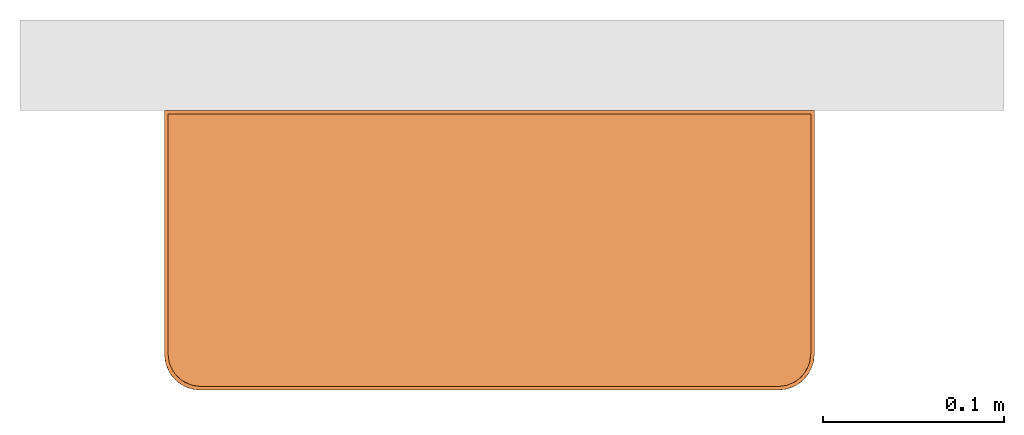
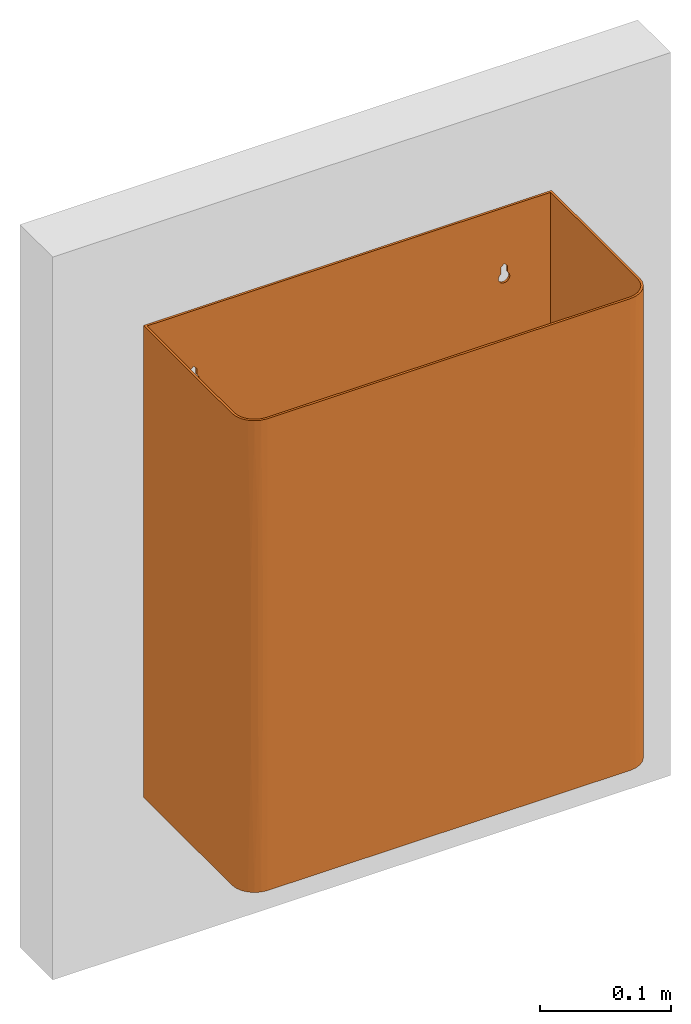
# One storey, part 2 of 2: 1 proxy.
"""IFC2X3 building model written with IfcOpenShell, lengths in millimetres."""

import ifcopenshell
import ifcopenshell.guid

model = None  # the IFC model being written
_history = None  # IfcOwnerHistory: only IFC2X3 demands one
_inside = {}  # id of a spatial element -> (the spatial element, [elements in it])
_under = {}  # id of a project, library or spatial element -> (it, [spatial elements below it])
_declared = {}  # id of a project -> (the project, [libraries it declares])
_typed = {}  # id of a type object -> (the type object, [elements of that type])
_made_of = {}  # id of a material, layer set ... -> (it, [elements and type objects made of it])


def new_model(schema):
    """Start an empty IFC model of exactly this schema.

    Asked for "IFC4X3", IfcOpenShell would pick the latest addendum, in which some entities
    have other attributes; the version numbers below select the first issue.
    IFC2X3 requires an IfcOwnerHistory on every rooted entity: one is made here for all.
    """
    global model, _history
    if schema == "IFC4X3":
        model = ifcopenshell.file(schema_version=(4, 3, 0, 0))
    else:
        model = ifcopenshell.file(schema=schema)
    _inside.clear()
    _under.clear()
    _declared.clear()
    _typed.clear()
    _made_of.clear()
    _history = None
    if model.schema == "IFC2X3":
        org = make("IfcOrganization", Name="unknown")
        user = make(
            "IfcPersonAndOrganization",
            ThePerson=make("IfcPerson", FamilyName="unknown"),
            TheOrganization=org,
        )
        app = make(
            "IfcApplication",
            ApplicationDeveloper=org,
            Version="unknown",
            ApplicationFullName="unknown",
            ApplicationIdentifier="unknown",
        )
        _history = make(
            "IfcOwnerHistory",
            OwningUser=user,
            OwningApplication=app,
            ChangeAction="ADDED",
            CreationDate=0,
        )
    return model


def make(cls, **values):
    """One entity of the class cls with the attributes given. An attribute that is None is left unset."""
    return model.create_entity(
        cls, **{name: value for name, value in values.items() if value is not None}
    )


def entity(cls, *values):
    """Any entity or typed value of the class cls, its attributes in the order of the schema. None: left unset."""
    e = model.create_entity(cls)
    for i, value in enumerate(values):
        if value is not None:
            e[i] = value
    return e


def rooted(cls, **values):
    """An entity with a GlobalId (a new one), such as an element, a storey or a relation."""
    return make(cls, GlobalId=ifcopenshell.guid.new(), OwnerHistory=_history, **values)


def si_unit(unit_type, name, prefix=None):
    """IfcSIUnit, for example si_unit("LENGTHUNIT", "METRE", prefix="MILLI")."""
    return make("IfcSIUnit", UnitType=unit_type, Prefix=prefix, Name=name)


def converted_unit(unit_type, name, factor, base, dimensions=None, offset=None):
    """IfcConversionBasedUnit, such as the inch: factor (a typed value) times the base unit."""
    return make(
        "IfcConversionBasedUnit"
        if offset is None
        else "IfcConversionBasedUnitWithOffset",
        ConversionOffset=offset,
        Dimensions=None
        if dimensions is None
        else entity("IfcDimensionalExponents", *dimensions),
        UnitType=unit_type,
        Name=name,
        ConversionFactor=make(
            "IfcMeasureWithUnit", ValueComponent=factor, UnitComponent=base
        ),
    )


def derived_unit(unit_type, elements):
    """IfcDerivedUnit: a product of units, each with its exponent."""
    return make(
        "IfcDerivedUnit",
        Elements=[
            make("IfcDerivedUnitElement", Unit=unit, Exponent=power)
            for unit, power in elements
        ],
        UnitType=unit_type,
    )


def assignment(units):
    """IfcUnitAssignment: the units of a project."""
    return None if units is None else make("IfcUnitAssignment", Units=units)


def point(xyz):
    """IfcCartesianPoint."""
    return None if xyz is None else make("IfcCartesianPoint", Coordinates=xyz)


def direction(xyz):
    """IfcDirection."""
    return None if xyz is None else make("IfcDirection", DirectionRatios=xyz)


def frame(location, z_axis=None, x_axis=None):
    """IfcAxis2Placement3D, a coordinate frame: its origin and axes. An axis left out is left unset."""
    return make(
        "IfcAxis2Placement3D",
        Location=point(location),
        Axis=direction(z_axis),
        RefDirection=direction(x_axis),
    )


def origin():
    """The frame at (0, 0, 0) with its axes left unset."""
    return frame((0.0, 0.0, 0.0))


def place(relative_to, where):
    """IfcLocalPlacement: puts the frame where relative to a parent placement (None: the world)."""
    return make(
        "IfcLocalPlacement", PlacementRelTo=relative_to, RelativePlacement=where
    )


def context(
    kind, dimensions, precision=None, world=None, true_north=None, identifier=None
):
    """IfcGeometricRepresentationContext, for example the 3D "Model" context."""
    return make(
        "IfcGeometricRepresentationContext",
        ContextIdentifier=identifier,
        ContextType=kind,
        CoordinateSpaceDimension=dimensions,
        Precision=precision,
        WorldCoordinateSystem=world,
        TrueNorth=true_north,
    )


def subcontext(parent, identifier, kind, view, scale=None):
    """IfcGeometricRepresentationSubContext, for example "Body" below "Model"."""
    return make(
        "IfcGeometricRepresentationSubContext",
        ContextIdentifier=identifier,
        ContextType=kind,
        ParentContext=parent,
        TargetScale=scale,
        TargetView=view,
    )


def project(units=None, contexts=None):
    """IfcProject with its units and contexts."""
    return rooted(
        "IfcProject",
        Name="project",
        RepresentationContexts=contexts,
        UnitsInContext=assignment(units),
    )


def spatial(cls, under=None, at=None, **own):
    """A site, building, storey or space (cls), placed at a placement, below another one or the project."""
    s = rooted(cls, ObjectPlacement=at, **own)
    if under is not None:
        _under.setdefault(under.id(), (under, []))[1].append(s)
    return s


def faces_of(points, faces, orient=None, outer=None):
    """IfcFace entities. A face is a list of loops; a loop is a list of indices into points, from 0.

    orient and outer hold one flag for each loop. By default every Orientation is true, the
    first loop of a face is its IfcFaceOuterBound and the others are IfcFaceBound.
    """
    made = []
    for i, loops in enumerate(faces):
        bounds = []
        for j, loop in enumerate(loops):
            is_outer = j == 0 if outer is None else outer[i][j]
            bounds.append(
                make(
                    "IfcFaceOuterBound" if is_outer else "IfcFaceBound",
                    Bound=make("IfcPolyLoop", Polygon=[points[k] for k in loop]),
                    Orientation=True if orient is None else orient[i][j],
                )
            )
        made.append(make("IfcFace", Bounds=bounds))
    return made


def faceted_brep(points, faces, orient=None, outer=None, voids=None):
    """IfcFacetedBrep: a solid bounded by flat faces; with voids (closed shells), ...WithVoids."""
    shared = [point(p) for p in points]
    hull = make("IfcClosedShell", CfsFaces=faces_of(shared, faces, orient, outer))
    if voids is None:
        return make("IfcFacetedBrep", Outer=hull)
    return make(
        "IfcFacetedBrepWithVoids",
        Outer=hull,
        Voids=[
            make(cls, CfsFaces=faces_of(shared, fs, o, b)) for cls, fs, o, b in voids
        ],
    )


def shape(context_of_items, identifier, shape_type, items):
    """IfcShapeRepresentation: the items that make up one representation, for example the "Body"."""
    return make(
        "IfcShapeRepresentation",
        ContextOfItems=context_of_items,
        RepresentationIdentifier=identifier,
        RepresentationType=shape_type,
        Items=items,
    )


def source(mapping_origin, context_of_items, identifier, shape_type, items):
    """IfcRepresentationMap: a shape defined once, which mapped items show again and again."""
    return make(
        "IfcRepresentationMap",
        MappingOrigin=mapping_origin,
        MappedRepresentation=shape(context_of_items, identifier, shape_type, items),
    )


def transform(
    local_origin,
    x_axis=None,
    y_axis=None,
    z_axis=None,
    scale=None,
    scale2=None,
    scale3=None,
    uniform=True,
):
    """IfcCartesianTransformationOperator3D, or its non-uniform kind. x_axis, y_axis, z_axis: its Axis1, 2, 3."""
    if uniform:
        return make(
            "IfcCartesianTransformationOperator3D",
            Axis1=direction(x_axis),
            Axis2=direction(y_axis),
            LocalOrigin=point(local_origin),
            Scale=scale,
            Axis3=direction(z_axis),
        )
    return make(
        "IfcCartesianTransformationOperator3DnonUniform",
        Axis1=direction(x_axis),
        Axis2=direction(y_axis),
        LocalOrigin=point(local_origin),
        Scale=scale,
        Axis3=direction(z_axis),
        Scale2=scale2,
        Scale3=scale3,
    )


def mapped(mapping_source, mapping_target):
    """IfcMappedItem: shows the shape of a source again, moved by a transform."""
    return make(
        "IfcMappedItem", MappingSource=mapping_source, MappingTarget=mapping_target
    )


def material(Name=None, Category=None):
    """IfcMaterial."""
    return make("IfcMaterial", Name=Name, Category=Category)


def material_list(materials):
    """IfcMaterialList."""
    return make("IfcMaterialList", Materials=materials)


def made_of(thing, what):
    """Note that an element or type object is made of a material, layer set ...; save() writes the relation."""
    if what is not None:
        _made_of.setdefault(what.id(), (what, []))[1].append(thing)
    return thing


def element(
    cls,
    number,
    at=None,
    inside=None,
    cuts=None,
    type_object=None,
    material=None,
    context=None,
    identifier="Body",
    shape_type=None,
    held_by="IfcProductDefinitionShape",
    body=None,
    shapes=None,
    **own,
):
    """One element of the class cls, such as IfcWall. Its Tag is "e" and its number.

    at: its placement. inside: the storey or other place that contains it. cuts: it is an
    opening in that element (IfcRelVoidsElement). A single representation is given by context,
    identifier, shape_type and body (its items); several are given by shapes. held_by: the class
    of the entity that holds the representations. save() writes the other relations.
    """
    e = rooted(cls, Tag="e%d" % number, ObjectPlacement=at, **own)
    if body is not None:
        shapes = [shape(context, identifier, shape_type, body)]
    if shapes is not None:
        e.Representation = make(held_by, Representations=shapes)
    if inside is not None:
        _inside.setdefault(inside.id(), (inside, []))[1].append(e)
    if cuts is not None:
        rooted(
            "IfcRelVoidsElement", RelatingBuildingElement=cuts, RelatedOpeningElement=e
        )
    if type_object is not None:
        _typed.setdefault(type_object.id(), (type_object, []))[1].append(e)
    return made_of(e, material)


def aggregate(whole, parts):
    """IfcRelAggregates: a whole, such as a stair, and the parts it consists of."""
    return rooted("IfcRelAggregates", RelatingObject=whole, RelatedObjects=parts)


def save(model, path):
    """Write the relations noted so far, then the file.

    IfcRelAggregates (storeys below a building ...), IfcRelContainedInSpatialStructure (elements
    in a storey), IfcRelDefinesByType, IfcRelAssociatesMaterial and IfcRelDeclares: one each for
    every whole, place, type object, material and project.
    """
    for whole, parts in _under.values():
        aggregate(whole, parts)
    for where, things in _inside.values():
        rooted(
            "IfcRelContainedInSpatialStructure",
            RelatedElements=things,
            RelatingStructure=where,
        )
    for kind, things in _typed.values():
        rooted("IfcRelDefinesByType", RelatedObjects=things, RelatingType=kind)
    for what, things in _made_of.values():
        rooted("IfcRelAssociatesMaterial", RelatedObjects=things, RelatingMaterial=what)
    for by, libraries in _declared.values():
        rooted("IfcRelDeclares", RelatingContext=by, RelatedDefinitions=libraries)
    model.write(path)


model = new_model("IFC2X3")

# Units and contexts
model_context = context("Model", 3, precision=1e-05, world=origin(), true_north=direction((2.0, 6.12303176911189e-17, 1.0)))
context_of_model = context(None, 3, precision=1e-05, world=origin(), true_north=direction((2.0, 6.12303176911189e-17, 1.0)))
body_context = subcontext(model_context, "Body", "Model", "MODEL_VIEW")
ifc_project = project(units=[si_unit("LENGTHUNIT", "METRE", prefix="MILLI"), si_unit("AREAUNIT", "SQUARE_METRE"), si_unit("VOLUMEUNIT", "CUBIC_METRE"), converted_unit("PLANEANGLEUNIT", "DEGREE", entity("IfcRatioMeasure", 0.0174532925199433), si_unit("PLANEANGLEUNIT", "RADIAN"), dimensions=[0, 0, 0, 0, 0, 0, 0]), si_unit("MASSUNIT", "GRAM", prefix="KILO"), si_unit("TIMEUNIT", "SECOND"), si_unit("THERMODYNAMICTEMPERATUREUNIT", "KELVIN"), derived_unit("THERMALTRANSMITTANCEUNIT", [(si_unit("MASSUNIT", "GRAM", prefix="KILO"), 1), (si_unit("THERMODYNAMICTEMPERATUREUNIT", "KELVIN"), -1), (si_unit("TIMEUNIT", "SECOND"), -3)]), derived_unit("VOLUMETRICFLOWRATEUNIT", [(si_unit("LENGTHUNIT", "METRE"), 3), (si_unit("TIMEUNIT", "SECOND"), -1)]), si_unit("POWERUNIT", "WATT")], contexts=[model_context, context_of_model])

# Site, building, storey
site_placement = place(None, origin())
site = spatial("IfcSite", under=ifc_project, at=site_placement, Name="Default", CompositionType="ELEMENT")
building_placement = place(site_placement, origin())
building = spatial("IfcBuilding", under=site, at=building_placement, CompositionType="ELEMENT")
storey_placement = place(building_placement, origin())
storey = spatial("IfcBuildingStorey", under=building, at=storey_placement, Name="Level 1", CompositionType="ELEMENT", Elevation=0.0)

# Proxy
ifc_material = material(Name="Stainless Steel")
ifc_material_list = material_list([ifc_material])
shared_shape = source(origin(), body_context, "Body", "Brep", [
    faceted_brep([(180.0, 155.0, 440.0), (178.0, 153.0, 440.0), (180.0, 20.0, 440.0), (-178.0, 153.0, 440.0), (-180.0, 155.0, 440.0), (-180.0, 20.0, 440.0), (-178.0, 20.0, 440.0), (-177.386664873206, 15.3412571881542, 440.0), (-179.318516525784, 14.8236190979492, 440.0), (-177.320508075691, 10.0, 440.0), (-175.588457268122, 11.0, 440.0), (-174.142135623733, 5.85786437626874, 440.0), (-172.72792206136, 7.27207793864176, 440.0), (-170.0, 2.67949192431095, 440.0), (-169.0, 4.41154273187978, 440.0), (-165.176380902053, 0.681483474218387, 440.0), (-164.658742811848, 2.6133351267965, 440.0), (-160.0, 0.0, 440.0), (-160.0, 2.0, 440.0), (160.0, 2.0, 440.0), (160.0, 0.0, 440.0), (164.658742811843, 2.61333512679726, 440.0), (165.176380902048, 0.681483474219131, 440.0), (169.0, 4.41154273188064, 440.0), (170.0, 2.67949192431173, 440.0), (172.727922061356, 7.27207793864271, 440.0), (174.142135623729, 5.85786437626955, 440.0), (175.588457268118, 11.0, 440.0), (177.320508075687, 10.0, 440.0), (177.386664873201, 15.3412571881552, 440.0), (179.318516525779, 14.8236190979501, 440.0), (178.0, 20.0, 440.0), (-180.0, 155.0, 0.0), (-178.0, 153.0, 0.0), (-180.0, 20.0, 0.0), (178.0, 153.0, 0.0), (180.0, 155.0, 0.0), (180.0, 20.0, 0.0), (178.0, 20.0, 0.0), (177.386664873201, 15.3412571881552, 0.0), (179.318516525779, 14.8236190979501, 0.0), (177.320508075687, 10.0, 0.0), (175.588457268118, 11.0, 0.0), (174.142135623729, 5.85786437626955, 0.0), (172.727922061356, 7.27207793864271, 0.0), (170.0, 2.67949192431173, 0.0), (169.0, 4.41154273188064, 0.0), (165.176380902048, 0.681483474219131, 0.0), (164.658742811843, 2.61333512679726, 0.0), (160.0, 0.0, 0.0), (160.0, 2.0, 0.0), (-160.0, 2.0, 0.0), (-160.0, 0.0, 0.0), (-164.658742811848, 2.6133351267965, 0.0), (-165.176380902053, 0.681483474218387, 0.0), (-169.0, 4.41154273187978, 0.0), (-170.0, 2.67949192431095, 0.0), (-172.72792206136, 7.27207793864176, 0.0), (-174.142135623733, 5.85786437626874, 0.0), (-175.588457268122, 11.0, 0.0), (-177.320508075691, 10.0, 0.0), (-177.386664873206, 15.3412571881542, 0.0), (-179.318516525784, 14.8236190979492, 0.0), (-178.0, 20.0, 0.0), (140.0, 155.0, 385.0), (140.895755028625, 155.0, 378.134181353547), (140.0, 155.0, 379.0), (141.549658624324, 155.0, 377.073790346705), (141.92111595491, 155.0, 375.884656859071), (137.0, 155.0, 388.0), (-137.0, 155.0, 388.0), (-134.0, 155.0, 385.0), (134.0, 155.0, 385.0), (-132.07888404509, 155.0, 375.88465685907), (132.078884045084, 155.0, 375.884656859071), (132.45034137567, 155.0, 377.073790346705), (133.104244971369, 155.0, 378.134181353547), (134.0, 155.0, 379.0), (-132.012933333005, 155.0, 374.640603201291), (132.012933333, 155.0, 374.640603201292), (-132.25658350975, 155.0, 373.418861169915), (132.256583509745, 155.0, 373.418861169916), (-132.79470858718, 155.0, 372.295277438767), (132.794708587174, 155.0, 372.295277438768), (133.59390135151, 155.0, 371.339604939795), (-133.593901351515, 155.0, 371.339604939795), (137.0, 155.0, 78.0), (134.604547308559, 155.0, 370.61117254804), (135.763904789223, 155.0, 370.155201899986), (137.0, 155.0, 370.0), (138.236095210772, 155.0, 370.155201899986), (139.395452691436, 155.0, 370.61117254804), (140.406098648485, 155.0, 371.339604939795), (140.0, 155.0, 75.0), (141.20529141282, 155.0, 372.295277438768), (141.74341649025, 155.0, 373.418861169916), (141.987066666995, 155.0, 374.640603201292), (141.921115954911, 155.0, 65.8846568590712), (141.549658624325, 155.0, 67.0737903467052), (140.895755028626, 155.0, 68.1341813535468), (140.0, 155.0, 69.0), (-137.0, 155.0, 78.0), (-134.0, 155.0, 75.0), (134.0, 155.0, 75.0), (132.078884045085, 155.0, 65.8846568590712), (132.450341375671, 155.0, 67.0737903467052), (133.10424497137, 155.0, 68.1341813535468), (134.0, 155.0, 69.0), (-132.07888404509, 155.0, 65.8846568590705), (132.012933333, 155.0, 64.6406032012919), (-132.012933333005, 155.0, 64.6406032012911), (132.256583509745, 155.0, 63.4188611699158), (-132.25658350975, 155.0, 63.4188611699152), (132.794708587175, 155.0, 62.295277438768), (-132.794708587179, 155.0, 62.2952774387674), (133.59390135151, 155.0, 61.3396049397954), (134.604547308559, 155.0, 60.6111725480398), (-133.593901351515, 155.0, 61.3396049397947), (-134.604547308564, 155.0, 60.611172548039), (135.763904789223, 155.0, 60.1552018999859), (137.0, 155.0, 60.0), (138.236095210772, 155.0, 60.1552018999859), (139.395452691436, 155.0, 60.6111725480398), (140.406098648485, 155.0, 61.3396049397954), (141.205291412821, 155.0, 62.2952774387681), (141.74341649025, 155.0, 63.4188611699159), (141.987066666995, 155.0, 64.6406032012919), (-132.450341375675, 155.0, 67.0737903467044), (-133.104244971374, 155.0, 68.134181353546), (-134.0, 155.0, 69.0), (-134.604547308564, 155.0, 370.611172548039), (-135.763904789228, 155.0, 370.155201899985), (-137.0, 155.0, 370.0), (-138.236095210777, 155.0, 370.155201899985), (-139.395452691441, 155.0, 370.611172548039), (-140.40609864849, 155.0, 371.339604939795), (-140.0, 155.0, 75.0), (-141.205291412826, 155.0, 372.295277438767), (-141.743416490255, 155.0, 373.418861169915), (-141.921115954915, 155.0, 65.8846568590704), (-141.549658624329, 155.0, 67.0737903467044), (-140.89575502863, 155.0, 68.134181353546), (-140.0, 155.0, 69.0), (-141.987066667, 155.0, 64.6406032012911), (-141.743416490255, 155.0, 63.4188611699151), (-141.205291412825, 155.0, 62.2952774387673), (-140.40609864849, 155.0, 61.3396049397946), (-139.395452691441, 155.0, 60.611172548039), (-138.236095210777, 155.0, 60.1552018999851), (-137.0, 155.0, 60.0), (-135.763904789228, 155.0, 60.1552018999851), (-140.0, 155.0, 385.0), (-141.921115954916, 155.0, 375.88465685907), (-141.987066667, 155.0, 374.640603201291), (-132.450341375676, 155.0, 377.073790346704), (-133.104244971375, 155.0, 378.134181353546), (-134.0, 155.0, 379.0), (-141.54965862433, 155.0, 377.073790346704), (-140.895755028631, 155.0, 378.134181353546), (-140.0, 155.0, 379.0), (-180.0, 20.0, 78.0768874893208), (-180.0, 20.0, 220.0), (-180.0, 20.0, 330.0), (-178.506938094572, 12.4175701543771, 97.8257032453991), (-178.477590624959, 12.3463312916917, 220.000002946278), (-179.615705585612, 16.0981934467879, 149.038452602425), (-172.17522852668, 4.13293315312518, 291.192933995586), (-175.867066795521, 7.82477140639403, 148.80706709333), (-172.175228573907, 4.13293318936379, 131.776850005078), (-179.615705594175, 16.0981934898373, 274.753524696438), (-175.867066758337, 7.82477135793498, 308.223151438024), (-178.638043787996, 12.7458064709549, 338.681401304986), (-167.254193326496, 1.36195613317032, 101.318601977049), (-163.901806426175, 0.384294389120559, 165.24648300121), (-160.0, 0.0, 109.999977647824), (-163.901806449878, 0.384294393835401, 290.961557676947), (-167.65366864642, 1.5224093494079, 220.0), (-167.582429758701, 1.49306186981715, 342.174299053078), (-160.0, 0.0, 361.9231324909), (-160.0, 0.0, 220.000044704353), (160.0, 0.0, 78.076872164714), (160.0, 0.0, 220.0), (160.0, 0.0, 330.000034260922), (163.901806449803, 0.384294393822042, 149.0384427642), (167.582429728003, 1.49306185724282, 97.8257015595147), (167.653668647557, 1.52240934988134, 220.0), (172.175228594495, 4.13293320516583, 308.223150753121), (167.254193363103, 1.36195614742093, 338.681398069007), (175.867066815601, 7.82477143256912, 291.192932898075), (172.175228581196, 4.13293319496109, 148.807067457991), (175.867066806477, 7.82477142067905, 131.776849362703), (179.615705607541, 16.0981935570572, 290.961557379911), (178.477590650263, 12.3463313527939, 220.0), (179.61570560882, 16.0981935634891, 165.246483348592), (163.901806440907, 0.38429439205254, 274.753517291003), (178.638043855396, 12.7458066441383, 101.318601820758), (180.0, 20.0, 110.0), (178.506938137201, 12.4175702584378, 342.174298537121), (180.0, 20.0, 361.922947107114), (180.0, 20.0, 220.0), (-140.0, 153.0, 385.0), (-140.895755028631, 153.0, 378.134181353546), (-140.0, 153.0, 379.0), (-141.54965862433, 153.0, 377.073790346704), (-141.921115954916, 153.0, 375.88465685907), (-137.0, 153.0, 388.0), (137.0, 153.0, 388.0), (134.0, 153.0, 385.0), (-134.0, 153.0, 385.0), (132.078884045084, 153.0, 375.884656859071), (-132.07888404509, 153.0, 375.88465685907), (-132.450341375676, 153.0, 377.073790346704), (-133.104244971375, 153.0, 378.134181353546), (-134.0, 153.0, 379.0), (132.012933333, 153.0, 374.640603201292), (-132.012933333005, 153.0, 374.640603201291), (132.256583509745, 153.0, 373.418861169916), (-132.25658350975, 153.0, 373.418861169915), (132.794708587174, 153.0, 372.295277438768), (-132.79470858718, 153.0, 372.295277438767), (-133.593901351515, 153.0, 371.339604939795), (133.59390135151, 153.0, 371.339604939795), (-137.0, 153.0, 78.0), (-134.604547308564, 153.0, 370.611172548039), (-135.763904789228, 153.0, 370.155201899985), (-137.0, 153.0, 370.0), (-138.236095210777, 153.0, 370.155201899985), (-139.395452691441, 153.0, 370.611172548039), (-140.40609864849, 153.0, 371.339604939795), (-140.0, 153.0, 75.0), (-141.205291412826, 153.0, 372.295277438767), (-141.743416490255, 153.0, 373.418861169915), (-141.987066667, 153.0, 374.640603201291), (-141.921115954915, 153.0, 65.8846568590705), (-141.549658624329, 153.0, 67.0737903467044), (-140.89575502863, 153.0, 68.134181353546), (-140.0, 153.0, 69.0), (137.0, 153.0, 78.0), (134.0, 153.0, 75.0), (-134.0, 153.0, 75.0), (-132.07888404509, 153.0, 65.8846568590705), (-132.450341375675, 153.0, 67.0737903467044), (-133.104244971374, 153.0, 68.134181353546), (-134.0, 153.0, 69.0), (132.078884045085, 153.0, 65.8846568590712), (-132.012933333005, 153.0, 64.6406032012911), (132.012933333, 153.0, 64.6406032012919), (-132.25658350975, 153.0, 63.4188611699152), (132.256583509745, 153.0, 63.4188611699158), (-132.794708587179, 153.0, 62.2952774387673), (132.794708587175, 153.0, 62.2952774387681), (-133.593901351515, 153.0, 61.3396049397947), (-134.604547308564, 153.0, 60.611172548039), (133.59390135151, 153.0, 61.3396049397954), (134.604547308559, 153.0, 60.6111725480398), (-135.763904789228, 153.0, 60.1552018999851), (-137.0, 153.0, 60.0), (-138.236095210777, 153.0, 60.1552018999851), (-139.395452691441, 153.0, 60.611172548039), (-140.40609864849, 153.0, 61.3396049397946), (-141.205291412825, 153.0, 62.2952774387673), (-141.743416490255, 153.0, 63.4188611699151), (-141.987066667, 153.0, 64.6406032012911), (132.450341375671, 153.0, 67.0737903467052), (133.10424497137, 153.0, 68.1341813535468), (134.0, 153.0, 69.0), (134.604547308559, 153.0, 370.61117254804), (135.763904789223, 153.0, 370.155201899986), (137.0, 153.0, 370.0), (138.236095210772, 153.0, 370.155201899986), (139.395452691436, 153.0, 370.61117254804), (140.406098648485, 153.0, 371.339604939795), (140.0, 153.0, 75.0), (141.20529141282, 153.0, 372.295277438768), (141.74341649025, 153.0, 373.418861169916), (141.921115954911, 153.0, 65.8846568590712), (141.549658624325, 153.0, 67.0737903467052), (140.895755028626, 153.0, 68.1341813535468), (140.0, 153.0, 69.0), (141.987066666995, 153.0, 64.6406032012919), (141.74341649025, 153.0, 63.4188611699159), (141.205291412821, 153.0, 62.2952774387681), (140.406098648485, 153.0, 61.3396049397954), (139.395452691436, 153.0, 60.6111725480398), (138.236095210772, 153.0, 60.1552018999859), (137.0, 153.0, 60.0), (135.763904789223, 153.0, 60.1552018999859), (140.0, 153.0, 385.0), (141.92111595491, 153.0, 375.884656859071), (141.987066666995, 153.0, 374.640603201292), (132.45034137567, 153.0, 377.073790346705), (133.104244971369, 153.0, 378.134181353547), (134.0, 153.0, 379.0), (141.549658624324, 153.0, 377.073790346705), (140.895755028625, 153.0, 378.134181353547), (140.0, 153.0, 379.0), (178.0, 20.0, 148.140717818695), (178.0, 20.0, 296.281029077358), (176.629831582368, 13.111698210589, 337.635485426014), (177.132724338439, 14.4800582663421, 222.210711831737), (174.280360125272, 9.04229427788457, 220.0), (160.0, 2.0, 143.71823639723), (160.0, 2.0, 291.860131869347), (163.790680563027, 2.4036725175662, 167.193624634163), (166.888301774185, 3.37016841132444, 229.617527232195), (170.957705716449, 5.71963987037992, 301.938062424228), (170.957705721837, 5.71963987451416, 141.433724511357), (166.888301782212, 3.37016841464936, 104.769722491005), (177.685868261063, 16.6518566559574, 340.596624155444), (177.691191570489, 16.6800992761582, 100.032806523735), (174.687563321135, 9.59444938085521, 334.375699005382), (176.629831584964, 13.1116982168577, 104.705159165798), (174.686584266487, 9.59306757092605, 105.609239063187), (166.675021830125, 3.2834189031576, 343.624233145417), (163.655649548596, 2.37512478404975, 274.59879628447), (-160.0, 2.0, 148.140301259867), (-160.0, 2.0, 296.280602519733), (-166.888301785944, 3.37016841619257, 337.63548527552), (-165.519941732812, 2.86727566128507, 222.210711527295), (-170.957705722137, 5.7196398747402, 220.0), (-178.0, 20.0, 143.719051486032), (-178.0, 20.0, 291.859525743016), (-177.596327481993, 16.2093194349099, 167.193624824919), (-176.629831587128, 13.1116982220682, 229.617527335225), (-174.280360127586, 9.04229428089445, 301.938062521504), (-174.280360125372, 9.04229427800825, 141.433724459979), (-176.629831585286, 13.1116982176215, 104.769722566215), (-163.34814333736, 2.31413173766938, 340.596624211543), (-163.319900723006, 2.30880842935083, 100.032806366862), (-170.405550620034, 5.31243667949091, 334.375699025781), (-166.888301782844, 3.37016841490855, 104.705159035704), (-170.406932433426, 5.31341573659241, 105.609239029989), (-176.716581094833, 13.3249781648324, 343.624233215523), (-177.624875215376, 16.3443504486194, 274.598796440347)], [[[0, 1, 2]], [[1, 0, 3]], [[4, 3, 0]], [[3, 4, 5]], [[5, 6, 3]], [[7, 6, 5]], [[8, 7, 5]], [[9, 7, 8]], [[9, 10, 7]], [[10, 9, 11]], [[11, 12, 10]], [[12, 11, 13]], [[13, 14, 12]], [[14, 13, 15]], [[16, 14, 15]], [[15, 17, 16]], [[18, 16, 17]], [[18, 17, 19]], [[19, 17, 20]], [[21, 19, 20]], [[20, 22, 21]], [[21, 22, 23]], [[24, 23, 22]], [[23, 24, 25]], [[26, 25, 24]], [[25, 26, 27]], [[28, 27, 26]], [[27, 28, 29]], [[29, 28, 30]], [[29, 30, 2]], [[2, 1, 31]], [[29, 2, 31]], [[32, 33, 34]], [[33, 32, 35]], [[36, 35, 32]], [[35, 36, 37]], [[37, 38, 35]], [[39, 38, 37]], [[40, 39, 37]], [[41, 39, 40]], [[41, 42, 39]], [[42, 41, 43]], [[43, 44, 42]], [[44, 43, 45]], [[45, 46, 44]], [[46, 45, 47]], [[48, 46, 47]], [[47, 49, 48]], [[50, 48, 49]], [[50, 49, 51]], [[51, 49, 52]], [[53, 51, 52]], [[52, 54, 53]], [[53, 54, 55]], [[56, 55, 54]], [[55, 56, 57]], [[58, 57, 56]], [[57, 58, 59]], [[60, 59, 58]], [[59, 60, 61]], [[61, 60, 62]], [[61, 62, 34]], [[34, 33, 63]], [[61, 34, 63]], [[64, 65, 66]], [[67, 65, 64]], [[68, 67, 64]], [[68, 64, 0]], [[0, 64, 69]], [[0, 69, 70]], [[70, 69, 71]], [[71, 69, 72]], [[71, 72, 73]], [[72, 74, 73]], [[75, 74, 72]], [[76, 75, 72]], [[72, 77, 76]], [[73, 74, 78]], [[74, 79, 78]], [[80, 78, 79]], [[79, 81, 80]], [[82, 80, 81]], [[81, 83, 82]], [[83, 84, 82]], [[82, 84, 85]], [[86, 85, 84]], [[86, 84, 87]], [[88, 86, 87]], [[88, 89, 86]], [[90, 86, 89]], [[90, 91, 86]], [[91, 92, 86]], [[93, 86, 92]], [[94, 93, 92]], [[93, 94, 95]], [[95, 96, 0]], [[95, 0, 93]], [[0, 96, 68]], [[93, 0, 36]], [[93, 36, 97]], [[97, 98, 93]], [[98, 99, 93]], [[100, 93, 99]], [[86, 101, 85]], [[102, 101, 86]], [[86, 103, 102]], [[103, 104, 102]], [[105, 104, 103]], [[103, 106, 105]], [[103, 107, 106]], [[102, 104, 108]], [[104, 109, 108]], [[110, 108, 109]], [[109, 111, 110]], [[110, 111, 112]], [[111, 113, 112]], [[114, 112, 113]], [[114, 113, 115]], [[115, 116, 36]], [[115, 36, 117]], [[114, 115, 117]], [[36, 32, 117]], [[117, 32, 118]], [[116, 119, 36]], [[120, 36, 119]], [[120, 121, 36]], [[122, 36, 121]], [[123, 36, 122]], [[36, 123, 124]], [[124, 125, 36]], [[125, 126, 36]], [[126, 97, 36]], [[108, 127, 102]], [[128, 102, 127]], [[102, 128, 129]], [[101, 130, 85]], [[101, 131, 130]], [[132, 131, 101]], [[133, 132, 101]], [[133, 101, 134]], [[135, 134, 101]], [[101, 136, 135]], [[137, 135, 136]], [[136, 138, 137]], [[4, 138, 136]], [[136, 139, 32]], [[140, 139, 136]], [[141, 140, 136]], [[136, 142, 141]], [[136, 32, 4]], [[143, 32, 139]], [[143, 144, 32]], [[144, 145, 32]], [[146, 32, 145]], [[32, 146, 147]], [[147, 148, 32]], [[148, 149, 32]], [[149, 150, 32]], [[150, 118, 32]], [[70, 4, 0]], [[151, 4, 70]], [[152, 4, 151]], [[4, 152, 153]], [[153, 138, 4]], [[73, 154, 71]], [[154, 155, 71]], [[156, 71, 155]], [[157, 152, 151]], [[158, 157, 151]], [[158, 151, 159]], [[4, 32, 34, 160, 161, 162, 5]], [[163, 164, 165]], [[166, 13, 11]], [[166, 167, 168]], [[164, 163, 167]], [[8, 162, 169]], [[167, 166, 170]], [[167, 60, 58]], [[34, 62, 160]], [[162, 8, 5]], [[62, 163, 165]], [[8, 169, 171]], [[164, 167, 170]], [[170, 9, 171]], [[172, 54, 173]], [[168, 167, 58]], [[170, 11, 9]], [[54, 174, 173]], [[175, 176, 173]], [[176, 177, 166]], [[166, 11, 170]], [[175, 177, 176]], [[178, 15, 175]], [[58, 56, 168]], [[179, 175, 173]], [[176, 166, 168]], [[168, 56, 172]], [[161, 160, 165, 169, 162]], [[62, 165, 160]], [[169, 165, 164]], [[171, 169, 164]], [[174, 54, 52]], [[178, 17, 15]], [[170, 171, 164]], [[9, 8, 171]], [[62, 60, 163]], [[167, 163, 60]], [[175, 179, 178]], [[177, 175, 15]], [[172, 173, 176]], [[168, 172, 176]], [[56, 54, 172]], [[15, 13, 177]], [[166, 177, 13]], [[174, 179, 173]], [[17, 178, 179, 174, 52, 49, 180, 181, 182, 20]], [[183, 184, 185]], [[186, 24, 187]], [[188, 186, 189, 190]], [[185, 184, 189]], [[45, 43, 189]], [[180, 47, 183]], [[191, 192, 193]], [[22, 182, 194]], [[22, 194, 187]], [[183, 185, 194]], [[185, 189, 186]], [[195, 40, 193]], [[190, 189, 43]], [[186, 26, 24]], [[40, 196, 193]], [[43, 41, 190]], [[192, 197, 188]], [[181, 180, 183, 194, 182]], [[191, 197, 192]], [[198, 30, 191]], [[188, 26, 186]], [[199, 198, 191, 193, 196]], [[192, 188, 190]], [[190, 41, 195]], [[188, 28, 26]], [[180, 49, 47]], [[182, 22, 20]], [[184, 183, 47]], [[187, 194, 185]], [[196, 40, 37]], [[198, 2, 30]], [[186, 187, 185]], [[24, 22, 187]], [[47, 45, 184]], [[189, 184, 45]], [[197, 191, 30]], [[195, 193, 192]], [[190, 195, 192]], [[41, 40, 195]], [[30, 28, 197]], [[188, 197, 28]], [[0, 2, 198, 199, 196, 37, 36]], [[200, 201, 202]], [[203, 201, 200]], [[204, 203, 200]], [[204, 200, 3]], [[3, 200, 205]], [[3, 205, 206]], [[206, 205, 207]], [[207, 205, 208]], [[207, 208, 209]], [[208, 210, 209]], [[211, 210, 208]], [[212, 211, 208]], [[208, 213, 212]], [[209, 210, 214]], [[210, 215, 214]], [[216, 214, 215]], [[215, 217, 216]], [[218, 216, 217]], [[217, 219, 218]], [[219, 220, 218]], [[218, 220, 221]], [[222, 221, 220]], [[222, 220, 223]], [[224, 222, 223]], [[224, 225, 222]], [[226, 222, 225]], [[226, 227, 222]], [[227, 228, 222]], [[229, 222, 228]], [[230, 229, 228]], [[229, 230, 231]], [[231, 232, 3]], [[231, 3, 229]], [[3, 232, 204]], [[229, 3, 33]], [[229, 33, 233]], [[233, 234, 229]], [[234, 235, 229]], [[236, 229, 235]], [[222, 237, 221]], [[238, 237, 222]], [[222, 239, 238]], [[239, 240, 238]], [[241, 240, 239]], [[239, 242, 241]], [[239, 243, 242]], [[238, 240, 244]], [[240, 245, 244]], [[246, 244, 245]], [[245, 247, 246]], [[246, 247, 248]], [[247, 249, 248]], [[250, 248, 249]], [[250, 249, 251]], [[251, 252, 33]], [[251, 33, 253]], [[250, 251, 253]], [[33, 35, 253]], [[253, 35, 254]], [[252, 255, 33]], [[256, 33, 255]], [[256, 257, 33]], [[258, 33, 257]], [[259, 33, 258]], [[33, 259, 260]], [[260, 261, 33]], [[261, 262, 33]], [[262, 233, 33]], [[244, 263, 238]], [[264, 238, 263]], [[238, 264, 265]], [[237, 266, 221]], [[237, 267, 266]], [[268, 267, 237]], [[269, 268, 237]], [[269, 237, 270]], [[271, 270, 237]], [[237, 272, 271]], [[273, 271, 272]], [[272, 274, 273]], [[1, 274, 272]], [[272, 275, 35]], [[276, 275, 272]], [[277, 276, 272]], [[272, 278, 277]], [[272, 35, 1]], [[279, 35, 275]], [[279, 280, 35]], [[280, 281, 35]], [[282, 35, 281]], [[35, 282, 283]], [[283, 284, 35]], [[284, 285, 35]], [[285, 286, 35]], [[286, 254, 35]], [[206, 1, 3]], [[287, 1, 206]], [[288, 1, 287]], [[1, 288, 289]], [[289, 274, 1]], [[209, 290, 207]], [[290, 291, 207]], [[292, 207, 291]], [[293, 288, 287]], [[294, 293, 287]], [[294, 287, 295]], [[1, 35, 38, 296, 297, 31]], [[298, 299, 300]], [[301, 302, 303]], [[304, 305, 306, 307]], [[29, 308, 298]], [[309, 296, 38]], [[29, 31, 308]], [[310, 298, 300]], [[296, 299, 297]], [[311, 42, 312]], [[42, 311, 39]], [[313, 23, 305]], [[300, 305, 310]], [[314, 303, 302]], [[300, 311, 312]], [[29, 298, 27]], [[307, 46, 48]], [[44, 306, 312]], [[307, 48, 303]], [[44, 46, 306]], [[314, 302, 19]], [[314, 21, 313]], [[305, 23, 25]], [[299, 309, 311]], [[300, 306, 305]], [[48, 50, 301]], [[46, 307, 306]], [[304, 307, 303]], [[39, 311, 309]], [[299, 311, 300]], [[300, 312, 306]], [[312, 42, 44]], [[310, 27, 298]], [[297, 299, 308]], [[310, 25, 27]], [[25, 310, 305]], [[314, 304, 303]], [[301, 303, 48]], [[304, 314, 313]], [[21, 314, 19]], [[304, 313, 305]], [[313, 21, 23]], [[39, 309, 38]], [[296, 309, 299]], [[298, 308, 299]], [[297, 308, 31]], [[19, 302, 301, 50, 51, 315, 316, 18]], [[317, 318, 319]], [[320, 321, 322]], [[323, 324, 325, 326]], [[16, 327, 317]], [[328, 315, 51]], [[16, 18, 327]], [[329, 317, 319]], [[315, 318, 316]], [[330, 55, 331]], [[55, 330, 53]], [[332, 10, 324]], [[319, 324, 329]], [[333, 322, 321]], [[319, 330, 331]], [[16, 317, 14]], [[326, 59, 61]], [[57, 325, 331]], [[326, 61, 322]], [[57, 59, 325]], [[333, 321, 6]], [[333, 7, 332]], [[324, 10, 12]], [[318, 328, 330]], [[319, 325, 324]], [[61, 63, 320]], [[59, 326, 325]], [[323, 326, 322]], [[53, 330, 328]], [[318, 330, 319]], [[319, 331, 325]], [[331, 55, 57]], [[329, 14, 317]], [[316, 318, 327]], [[329, 12, 14]], [[12, 329, 324]], [[333, 323, 322]], [[320, 322, 61]], [[323, 333, 332]], [[7, 333, 6]], [[323, 332, 324]], [[332, 7, 10]], [[53, 328, 51]], [[315, 328, 318]], [[317, 327, 318]], [[316, 327, 18]], [[3, 6, 321, 320, 63, 33]], [[207, 292, 77, 72]], [[238, 265, 107, 103]], [[69, 206, 207, 72]], [[64, 287, 206, 69]], [[295, 287, 64, 66]], [[278, 272, 93, 100]], [[65, 294, 295, 66]], [[96, 289, 288, 68]], [[68, 288, 293, 67]], [[67, 293, 294, 65]], [[96, 95, 274, 289]], [[92, 271, 273, 94]], [[89, 268, 269, 90]], [[90, 269, 270, 91]], [[91, 270, 271, 92]], [[274, 95, 94, 273]], [[88, 267, 268, 89]], [[83, 218, 221, 84]], [[84, 221, 266, 87]], [[87, 266, 267, 88]], [[83, 81, 216, 218]], [[74, 209, 214, 79]], [[77, 292, 291, 76]], [[76, 291, 290, 75]], [[75, 290, 209, 74]], [[216, 81, 79, 214]], [[202, 159, 151, 200]], [[236, 142, 136, 229]], [[151, 70, 205, 200]], [[71, 208, 205, 70]], [[208, 71, 156, 213]], [[239, 102, 129, 243]], [[212, 213, 156, 155]], [[210, 211, 154, 73]], [[155, 154, 211, 212]], [[73, 78, 215, 210]], [[80, 217, 215, 78]], [[220, 219, 82, 85]], [[224, 223, 130, 131]], [[85, 130, 223, 220]], [[131, 132, 225, 224]], [[219, 217, 80, 82]], [[226, 225, 132, 133]], [[228, 227, 134, 135]], [[133, 134, 227, 226]], [[135, 137, 230, 228]], [[138, 231, 230, 137]], [[204, 232, 153, 152]], [[201, 203, 157, 158]], [[152, 157, 203, 204]], [[158, 159, 202, 201]], [[232, 231, 138, 153]], [[103, 86, 237, 238]], [[93, 272, 237, 86]], [[277, 278, 100, 99]], [[275, 276, 98, 97]], [[99, 98, 276, 277]], [[97, 126, 279, 275]], [[125, 280, 279, 126]], [[282, 281, 124, 123]], [[284, 283, 122, 121]], [[123, 122, 283, 282]], [[121, 120, 285, 284]], [[281, 280, 125, 124]], [[286, 285, 120, 119]], [[253, 254, 116, 115]], [[119, 116, 254, 286]], [[115, 113, 250, 253]], [[111, 248, 250, 113]], [[244, 246, 109, 104]], [[264, 263, 105, 106]], [[104, 105, 263, 244]], [[106, 107, 265, 264]], [[246, 248, 111, 109]], [[136, 101, 222, 229]], [[102, 239, 222, 101]], [[242, 243, 129, 128]], [[240, 241, 127, 108]], [[128, 127, 241, 242]], [[108, 110, 245, 240]], [[112, 247, 245, 110]], [[251, 249, 114, 117]], [[255, 252, 118, 150]], [[117, 118, 252, 251]], [[150, 149, 256, 255]], [[249, 247, 112, 114]], [[257, 256, 149, 148]], [[259, 258, 147, 146]], [[148, 147, 258, 257]], [[146, 145, 260, 259]], [[144, 261, 260, 145]], [[233, 262, 143, 139]], [[235, 234, 140, 141]], [[139, 140, 234, 233]], [[141, 142, 236, 235]], [[262, 261, 144, 143]]]),
    faceted_brep([(-179.0, 154.0, 5.0), (-179.0, 20.0, 5.0), (-178.352590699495, 15.0824381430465, 5.0), (-176.454482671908, 10.4999999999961, 5.0), (-173.435028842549, 6.5649711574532, 5.0), (-169.500000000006, 3.54551732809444, 5.0), (-164.917561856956, 1.6474093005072, 5.0), (-160.0, 1.0, 5.0), (160.0, 1.0, 5.0), (164.917561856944, 1.64740930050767, 5.0), (169.499999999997, 3.54551732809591, 5.0), (173.435028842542, 6.56497115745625, 5.0), (176.454482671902, 10.5000000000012, 5.0), (178.35259069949, 15.0824381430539, 5.0), (179.0, 20.0, 5.0), (179.0, 154.0, 5.0), (-178.352590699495, 15.0824381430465, 0.0), (-179.0, 20.0, 0.0), (-179.0, 154.0, 0.0), (179.0, 154.0, 0.0), (179.0, 20.0, 0.0), (178.35259069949, 15.0824381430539, 0.0), (176.454482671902, 10.5000000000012, 0.0), (173.435028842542, 6.56497115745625, 0.0), (169.499999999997, 3.54551732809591, 0.0), (164.917561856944, 1.64740930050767, 0.0), (160.0, 1.0, 0.0), (-160.0, 1.0, 0.0), (-164.917561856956, 1.6474093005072, 0.0), (-169.500000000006, 3.54551732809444, 0.0), (-173.435028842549, 6.5649711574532, 0.0), (-176.454482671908, 10.4999999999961, 0.0)], [[[0, 1, 2, 3, 4, 5, 6, 7, 8, 9, 10, 11, 12, 13, 14, 15]], [[16, 17, 18, 19, 20, 21, 22, 23, 24, 25, 26, 27, 28, 29, 30, 31]], [[1, 0, 18, 17]], [[2, 1, 17, 16]], [[3, 2, 16, 31]], [[4, 3, 31, 30]], [[5, 4, 30, 29]], [[6, 5, 29, 28]], [[7, 6, 28, 27]], [[8, 7, 27, 26]], [[9, 8, 26, 25]], [[10, 9, 25, 24]], [[11, 10, 24, 23]], [[12, 11, 23, 22]], [[13, 12, 22, 21]], [[14, 13, 21, 20]], [[15, 14, 20, 19]], [[0, 15, 19, 18]]]),
])
proxy_placement = place(storey_placement, frame((1421.17987533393, 3797.69853342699, -199.584887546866)))
element("IfcBuildingElementProxy", 1, at=proxy_placement, inside=storey, material=ifc_material_list, Name="BC921:BC921 Dolphin Stainless Steel Surface Mounted Bin", ObjectType="BC921 Dolphin Stainless Steel Surface Mounted Bin", CompositionType="ELEMENT", context=body_context, shape_type="MappedRepresentation", body=[
    mapped(shared_shape, transform((0.0, 0.0, 0.0), scale=1.0)),
])

save(model, "model.ifc")
